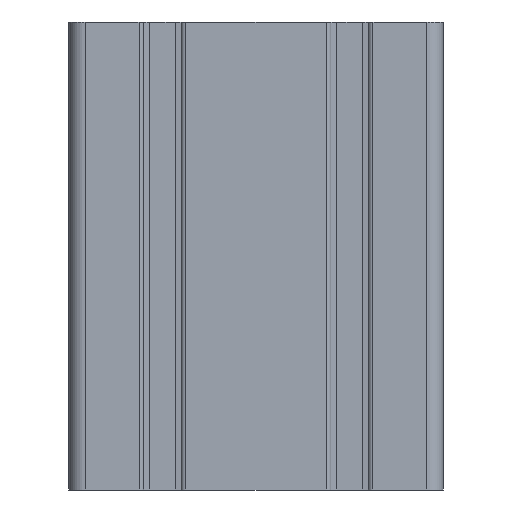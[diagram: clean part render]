
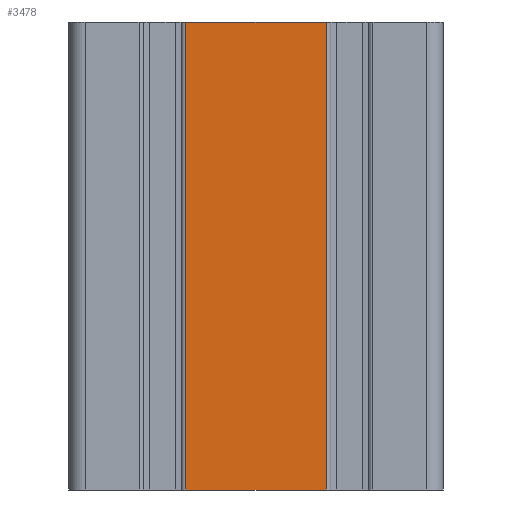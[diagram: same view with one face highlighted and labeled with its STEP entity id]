
A CAD part, front view. The second image highlights one B-rep face of the part: STEP entity #3478.
In plain terms, the highlighted planar face has unit normal (0, -1, 0).
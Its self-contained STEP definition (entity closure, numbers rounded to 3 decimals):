
#420 = CARTESIAN_POINT ( 'NONE',  ( 1170.976, 1028.648, 0. ) ) ;
#747 = CARTESIAN_POINT ( 'NONE',  ( 1170.976, 1028.648, 100. ) ) ;
#1165 = DIRECTION ( 'NONE',  ( 1., 0., 0. ) ) ;
#1396 = CARTESIAN_POINT ( 'NONE',  ( 1140.976, 1028.648, 0. ) ) ;
#1470 = EDGE_CURVE ( 'NONE', #2758, #11610, #7046, .T. ) ;
#1995 = CARTESIAN_POINT ( 'NONE',  ( 1155.976, 1028.648, 100. ) ) ;
#2041 = DIRECTION ( 'NONE',  ( 1., 0., 0. ) ) ;
#2549 = EDGE_LOOP ( 'NONE', ( #3370, #4594, #12812, #7130 ) ) ;
#2758 = VERTEX_POINT ( 'NONE', #6903 ) ;
#2785 = PLANE ( 'NONE',  #6771 ) ;
#3370 = ORIENTED_EDGE ( 'NONE', *, *, #4069, .T. ) ;
#3478 = ADVANCED_FACE ( 'NONE', ( #5897 ), #2785, .T. ) ;
#3913 = DIRECTION ( 'NONE',  ( 0., -1., 0. ) ) ;
#4069 = EDGE_CURVE ( 'NONE', #6842, #13417, #13225, .T. ) ;
#4349 = EDGE_CURVE ( 'NONE', #2758, #6842, #14261, .T. ) ;
#4594 = ORIENTED_EDGE ( 'NONE', *, *, #7101, .T. ) ;
#5667 = CARTESIAN_POINT ( 'NONE',  ( 1170.976, 1028.648, 0. ) ) ;
#5763 = LINE ( 'NONE', #7460, #10807 ) ;
#5897 = FACE_OUTER_BOUND ( 'NONE', #2549, .T. ) ;
#5906 = DIRECTION ( 'NONE',  ( 0., 0., -1. ) ) ;
#6269 = DIRECTION ( 'NONE',  ( 0., 0., -1. ) ) ;
#6449 = DIRECTION ( 'NONE',  ( 0., 0., 1. ) ) ;
#6467 = VECTOR ( 'NONE', #6269, 1000. ) ;
#6771 = AXIS2_PLACEMENT_3D ( 'NONE', #420, #3913, #5906 ) ;
#6842 = VERTEX_POINT ( 'NONE', #1396 ) ;
#6903 = CARTESIAN_POINT ( 'NONE',  ( 1140.976, 1028.648, 100. ) ) ;
#7046 = LINE ( 'NONE', #1995, #7388 ) ;
#7101 = EDGE_CURVE ( 'NONE', #13417, #11610, #5763, .T. ) ;
#7130 = ORIENTED_EDGE ( 'NONE', *, *, #4349, .T. ) ;
#7388 = VECTOR ( 'NONE', #2041, 1000. ) ;
#7460 = CARTESIAN_POINT ( 'NONE',  ( 1170.976, 1028.648, 0. ) ) ;
#9815 = CARTESIAN_POINT ( 'NONE',  ( 1170.976, 1028.648, 0. ) ) ;
#10807 = VECTOR ( 'NONE', #6449, 1000. ) ;
#11610 = VERTEX_POINT ( 'NONE', #747 ) ;
#12812 = ORIENTED_EDGE ( 'NONE', *, *, #1470, .F. ) ;
#13225 = LINE ( 'NONE', #5667, #13765 ) ;
#13417 = VERTEX_POINT ( 'NONE', #9815 ) ;
#13765 = VECTOR ( 'NONE', #1165, 1000. ) ;
#13831 = CARTESIAN_POINT ( 'NONE',  ( 1140.976, 1028.648, 0. ) ) ;
#14261 = LINE ( 'NONE', #13831, #6467 ) ;
